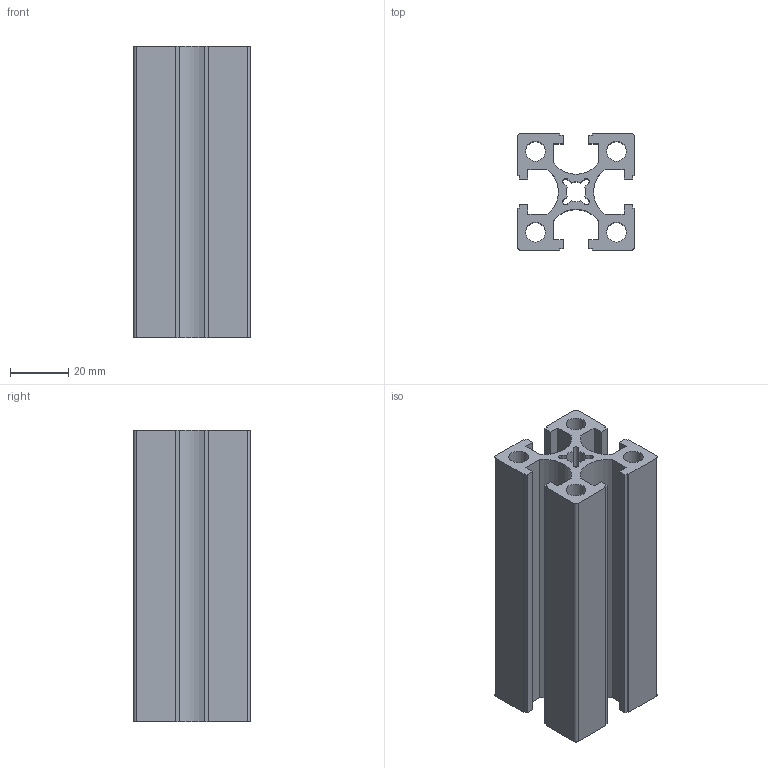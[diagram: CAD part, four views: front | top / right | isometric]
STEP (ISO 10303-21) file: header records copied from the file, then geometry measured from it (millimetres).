
FILE_DESCRIPTION(/* description */ (''),/* implementation_level */ '2;1');
FILE_NAME(/* name */ '\\AM-PUBLIC\Share\3D新型錄-2019整理\01.AM-鋁擠\8系列\AM8-H4040_100L.stp',/* time_stamp */ '2020-08-03T16:53:13+08:00',/* author */ ('AM'),/* organization */ (''),/* preprocessor_version */ 'ST-DEVELOPER v16.5',/* originating_system */ 'Autodesk Inventor 2017',/* authorisation */ '');
FILE_SCHEMA (('AUTOMOTIVE_DESIGN { 1 0 10303 214 3 1 1 }'));
Length unit declared in the file: millimetre
Products named in the file (1): 零件1
Bounding box: 40 x 40 x 100 mm (x, y, z)
Volume: 69359.3 mm3; surface area: 44231.5 mm2
Topology: 1 solids, 1 shells, 78 faces, 228 edges, 152 vertices
Faces by surface type: plane 58, cylinder 20
Full cylindrical faces by diameter (mm): 6.8 x4
Entity records: 2596 total; most frequent: CARTESIAN_POINT 455, ORIENTED_EDGE 448, DIRECTION 422, EDGE_CURVE 224, LINE 184, VECTOR 184, VERTEX_POINT 152, AXIS2_PLACEMENT_3D 119
